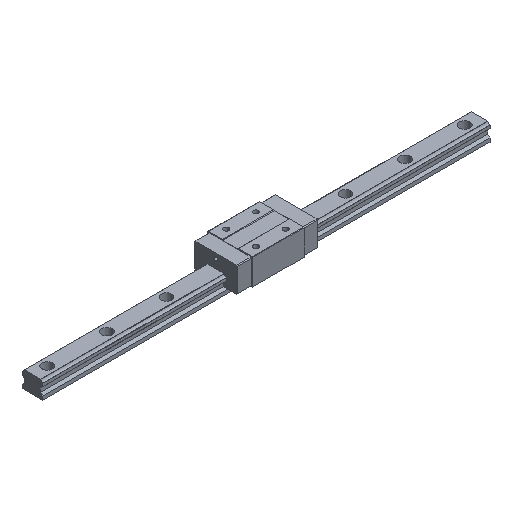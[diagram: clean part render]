
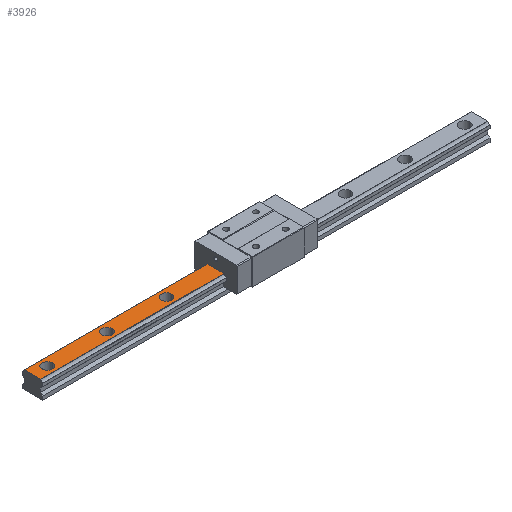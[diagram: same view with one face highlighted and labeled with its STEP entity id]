
A CAD part, isometric view. The second image highlights one B-rep face of the part: STEP entity #3926.
In plain terms, the highlighted planar face has unit normal (0, 0, 1).
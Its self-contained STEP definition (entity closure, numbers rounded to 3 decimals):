
#51 = EDGE_CURVE ( 'NONE', #272, #1247, #4310, .T. ) ;
#103 = ORIENTED_EDGE ( 'NONE', *, *, #1096, .T. ) ;
#104 = CARTESIAN_POINT ( 'NONE',  ( -280., 0., 23. ) ) ;
#109 = AXIS2_PLACEMENT_3D ( 'NONE', #5230, #1836, #232 ) ;
#209 = ORIENTED_EDGE ( 'NONE', *, *, #931, .T. ) ;
#232 = DIRECTION ( 'NONE',  ( 0., -1., 0. ) ) ;
#272 = VERTEX_POINT ( 'NONE', #3177 ) ;
#298 = VERTEX_POINT ( 'NONE', #1101 ) ;
#321 = CIRCLE ( 'NONE', #1425, 7. ) ;
#383 = DIRECTION ( 'NONE',  ( 1., 0., 0. ) ) ;
#467 = VERTEX_POINT ( 'NONE', #854 ) ;
#484 = AXIS2_PLACEMENT_3D ( 'NONE', #4321, #5077, #626 ) ;
#533 = EDGE_CURVE ( 'NONE', #3087, #467, #5337, .T. ) ;
#626 = DIRECTION ( 'NONE',  ( -1., 0., 0. ) ) ;
#694 = ORIENTED_EDGE ( 'NONE', *, *, #4570, .F. ) ;
#822 = CIRCLE ( 'NONE', #3402, 7. ) ;
#854 = CARTESIAN_POINT ( 'NONE',  ( -273., 0., 23. ) ) ;
#931 = EDGE_CURVE ( 'NONE', #467, #3087, #822, .T. ) ;
#941 = LINE ( 'NONE', #3792, #3113 ) ;
#1014 = ORIENTED_EDGE ( 'NONE', *, *, #3780, .T. ) ;
#1036 = CARTESIAN_POINT ( 'NONE',  ( -193., 0., 23. ) ) ;
#1096 = EDGE_CURVE ( 'NONE', #3982, #2205, #2809, .T. ) ;
#1101 = CARTESIAN_POINT ( 'NONE',  ( -127., 0., 23. ) ) ;
#1141 = EDGE_CURVE ( 'NONE', #1160, #298, #3585, .T. ) ;
#1160 = VERTEX_POINT ( 'NONE', #2368 ) ;
#1198 = DIRECTION ( 'NONE',  ( -1., 0., 0. ) ) ;
#1247 = VERTEX_POINT ( 'NONE', #4024 ) ;
#1313 = DIRECTION ( 'NONE',  ( -1., 0., 0. ) ) ;
#1340 = DIRECTION ( 'NONE',  ( -1., 0., 0. ) ) ;
#1397 = CARTESIAN_POINT ( 'NONE',  ( -300., -11.035, 23. ) ) ;
#1425 = AXIS2_PLACEMENT_3D ( 'NONE', #2141, #3401, #3778 ) ;
#1510 = ORIENTED_EDGE ( 'NONE', *, *, #5234, .T. ) ;
#1626 = CARTESIAN_POINT ( 'NONE',  ( -120., 0., 23. ) ) ;
#1739 = DIRECTION ( 'NONE',  ( 0., 0., -1. ) ) ;
#1807 = ORIENTED_EDGE ( 'NONE', *, *, #51, .T. ) ;
#1836 = DIRECTION ( 'NONE',  ( 0., 0., -1. ) ) ;
#1855 = AXIS2_PLACEMENT_3D ( 'NONE', #1943, #2260, #4438 ) ;
#1917 = FACE_BOUND ( 'NONE', #3794, .T. ) ;
#1943 = CARTESIAN_POINT ( 'NONE',  ( -120., 0., 23. ) ) ;
#1944 = VERTEX_POINT ( 'NONE', #3502 ) ;
#2141 = CARTESIAN_POINT ( 'NONE',  ( -200., 0., 23. ) ) ;
#2144 = ORIENTED_EDGE ( 'NONE', *, *, #533, .T. ) ;
#2205 = VERTEX_POINT ( 'NONE', #1036 ) ;
#2260 = DIRECTION ( 'NONE',  ( 0., 0., -1. ) ) ;
#2266 = FACE_BOUND ( 'NONE', #3541, .T. ) ;
#2302 = DIRECTION ( 'NONE',  ( -1., 0., 0. ) ) ;
#2337 = ORIENTED_EDGE ( 'NONE', *, *, #3522, .T. ) ;
#2368 = CARTESIAN_POINT ( 'NONE',  ( -113., 0., 23. ) ) ;
#2805 = VECTOR ( 'NONE', #4773, 1000. ) ;
#2809 = CIRCLE ( 'NONE', #484, 7. ) ;
#2870 = AXIS2_PLACEMENT_3D ( 'NONE', #1626, #3219, #1198 ) ;
#2875 = DIRECTION ( 'NONE',  ( 0., 0., -1. ) ) ;
#2914 = LINE ( 'NONE', #3638, #4884 ) ;
#2922 = DIRECTION ( 'NONE',  ( 0., -1., 0. ) ) ;
#2938 = CARTESIAN_POINT ( 'NONE',  ( -287., 0., 23. ) ) ;
#3087 = VERTEX_POINT ( 'NONE', #2938 ) ;
#3113 = VECTOR ( 'NONE', #2922, 1000. ) ;
#3144 = EDGE_CURVE ( 'NONE', #4681, #1944, #2914, .T. ) ;
#3177 = CARTESIAN_POINT ( 'NONE',  ( -53.9, 11.035, 23. ) ) ;
#3198 = LINE ( 'NONE', #4864, #2805 ) ;
#3219 = DIRECTION ( 'NONE',  ( 0., 0., -1. ) ) ;
#3238 = EDGE_LOOP ( 'NONE', ( #1014, #103 ) ) ;
#3378 = CARTESIAN_POINT ( 'NONE',  ( -280., 0., 23. ) ) ;
#3401 = DIRECTION ( 'NONE',  ( 0., 0., -1. ) ) ;
#3402 = AXIS2_PLACEMENT_3D ( 'NONE', #3378, #2875, #1313 ) ;
#3457 = ORIENTED_EDGE ( 'NONE', *, *, #1141, .T. ) ;
#3502 = CARTESIAN_POINT ( 'NONE',  ( -53.9, -11.035, 23. ) ) ;
#3522 = EDGE_CURVE ( 'NONE', #1247, #4681, #3198, .T. ) ;
#3524 = ORIENTED_EDGE ( 'NONE', *, *, #3144, .T. ) ;
#3541 = EDGE_LOOP ( 'NONE', ( #3457, #1510 ) ) ;
#3567 = FACE_OUTER_BOUND ( 'NONE', #4234, .T. ) ;
#3585 = CIRCLE ( 'NONE', #1855, 7. ) ;
#3638 = CARTESIAN_POINT ( 'NONE',  ( 300., -11.035, 23. ) ) ;
#3752 = VECTOR ( 'NONE', #2302, 1000. ) ;
#3778 = DIRECTION ( 'NONE',  ( -1., 0., 0. ) ) ;
#3780 = EDGE_CURVE ( 'NONE', #2205, #3982, #321, .T. ) ;
#3792 = CARTESIAN_POINT ( 'NONE',  ( -53.9, -11.035, 23. ) ) ;
#3794 = EDGE_LOOP ( 'NONE', ( #209, #2144 ) ) ;
#3884 = FACE_BOUND ( 'NONE', #3238, .T. ) ;
#3892 = CARTESIAN_POINT ( 'NONE',  ( 300., 11.035, 23. ) ) ;
#3907 = PLANE ( 'NONE',  #109 ) ;
#3926 = ADVANCED_FACE ( 'NONE', ( #1917, #3884, #2266, #3567 ), #3907, .F. ) ;
#3982 = VERTEX_POINT ( 'NONE', #5289 ) ;
#4024 = CARTESIAN_POINT ( 'NONE',  ( -300., 11.035, 23. ) ) ;
#4234 = EDGE_LOOP ( 'NONE', ( #3524, #694, #1807, #2337 ) ) ;
#4310 = LINE ( 'NONE', #3892, #3752 ) ;
#4321 = CARTESIAN_POINT ( 'NONE',  ( -200., 0., 23. ) ) ;
#4438 = DIRECTION ( 'NONE',  ( -1., 0., 0. ) ) ;
#4548 = AXIS2_PLACEMENT_3D ( 'NONE', #104, #1739, #1340 ) ;
#4570 = EDGE_CURVE ( 'NONE', #272, #1944, #941, .T. ) ;
#4681 = VERTEX_POINT ( 'NONE', #1397 ) ;
#4773 = DIRECTION ( 'NONE',  ( 0., -1., 0. ) ) ;
#4864 = CARTESIAN_POINT ( 'NONE',  ( -300., 0., 23. ) ) ;
#4884 = VECTOR ( 'NONE', #383, 1000. ) ;
#5077 = DIRECTION ( 'NONE',  ( 0., 0., -1. ) ) ;
#5206 = CIRCLE ( 'NONE', #2870, 7. ) ;
#5230 = CARTESIAN_POINT ( 'NONE',  ( 300., 0., 23. ) ) ;
#5234 = EDGE_CURVE ( 'NONE', #298, #1160, #5206, .T. ) ;
#5289 = CARTESIAN_POINT ( 'NONE',  ( -207., 0., 23. ) ) ;
#5337 = CIRCLE ( 'NONE', #4548, 7. ) ;
